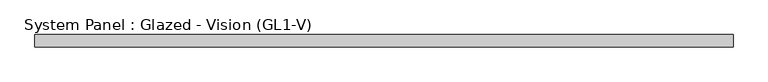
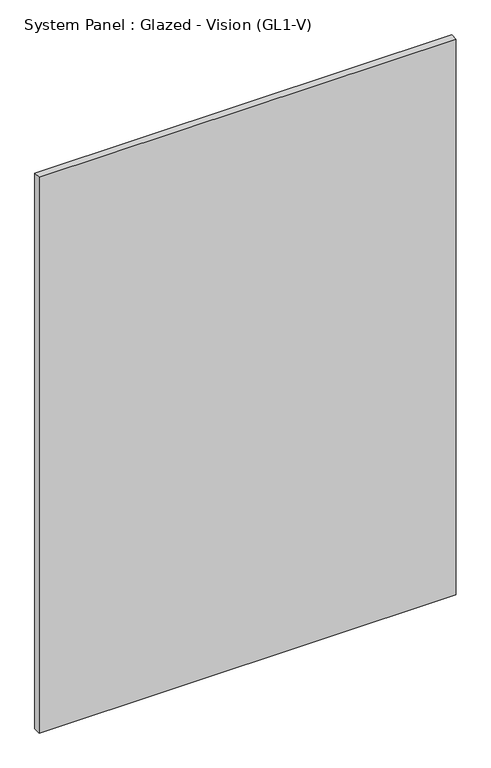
"""IFC4 building model written with IfcOpenShell, lengths in millimetres: plate geometry, System Panel : Glazed - Vision (GL1-V)."""

import ifcopenshell
import ifcopenshell.guid

model = None  # the IFC model being written
_history = None  # IfcOwnerHistory: only IFC2X3 demands one
_inside = {}  # id of a spatial element -> (the spatial element, [elements in it])
_under = {}  # id of a project, library or spatial element -> (it, [spatial elements below it])
_declared = {}  # id of a project -> (the project, [libraries it declares])
_typed = {}  # id of a type object -> (the type object, [elements of that type])
_made_of = {}  # id of a material, layer set ... -> (it, [elements and type objects made of it])


def new_model(schema):
    """Start an empty IFC model of exactly this schema.

    Asked for "IFC4X3", IfcOpenShell would pick the latest addendum, in which some entities
    have other attributes; the version numbers below select the first issue.
    IFC2X3 requires an IfcOwnerHistory on every rooted entity: one is made here for all.
    """
    global model, _history
    if schema == "IFC4X3":
        model = ifcopenshell.file(schema_version=(4, 3, 0, 0))
    else:
        model = ifcopenshell.file(schema=schema)
    _inside.clear()
    _under.clear()
    _declared.clear()
    _typed.clear()
    _made_of.clear()
    _history = None
    if model.schema == "IFC2X3":
        org = make("IfcOrganization", Name="unknown")
        user = make(
            "IfcPersonAndOrganization",
            ThePerson=make("IfcPerson", FamilyName="unknown"),
            TheOrganization=org,
        )
        app = make(
            "IfcApplication",
            ApplicationDeveloper=org,
            Version="unknown",
            ApplicationFullName="unknown",
            ApplicationIdentifier="unknown",
        )
        _history = make(
            "IfcOwnerHistory",
            OwningUser=user,
            OwningApplication=app,
            ChangeAction="ADDED",
            CreationDate=0,
        )
    return model


def make(cls, **values):
    """One entity of the class cls with the attributes given. An attribute that is None is left unset."""
    return model.create_entity(
        cls, **{name: value for name, value in values.items() if value is not None}
    )


def rooted(cls, **values):
    """An entity with a GlobalId (a new one), such as an element, a storey or a relation."""
    return make(cls, GlobalId=ifcopenshell.guid.new(), OwnerHistory=_history, **values)


def si_unit(unit_type, name, prefix=None):
    """IfcSIUnit, for example si_unit("LENGTHUNIT", "METRE", prefix="MILLI")."""
    return make("IfcSIUnit", UnitType=unit_type, Prefix=prefix, Name=name)


def assignment(units):
    """IfcUnitAssignment: the units of a project."""
    return None if units is None else make("IfcUnitAssignment", Units=units)


def point(xyz):
    """IfcCartesianPoint."""
    return None if xyz is None else make("IfcCartesianPoint", Coordinates=xyz)


def direction(xyz):
    """IfcDirection."""
    return None if xyz is None else make("IfcDirection", DirectionRatios=xyz)


def frame(location, z_axis=None, x_axis=None):
    """IfcAxis2Placement3D, a coordinate frame: its origin and axes. An axis left out is left unset."""
    return make(
        "IfcAxis2Placement3D",
        Location=point(location),
        Axis=direction(z_axis),
        RefDirection=direction(x_axis),
    )


def origin():
    """The frame at (0, 0, 0) with its axes left unset."""
    return frame((0.0, 0.0, 0.0))


def origin_with_axes():
    """The frame at (0, 0, 0) with the z axis (0, 0, 1) and the x axis (1, 0, 0) written out."""
    return frame((0.0, 0.0, 0.0), z_axis=(0.0, 0.0, 1.0), x_axis=(1.0, 0.0, 0.0))


def place(relative_to, where):
    """IfcLocalPlacement: puts the frame where relative to a parent placement (None: the world)."""
    return make(
        "IfcLocalPlacement", PlacementRelTo=relative_to, RelativePlacement=where
    )


def context(
    kind, dimensions, precision=None, world=None, true_north=None, identifier=None
):
    """IfcGeometricRepresentationContext, for example the 3D "Model" context."""
    return make(
        "IfcGeometricRepresentationContext",
        ContextIdentifier=identifier,
        ContextType=kind,
        CoordinateSpaceDimension=dimensions,
        Precision=precision,
        WorldCoordinateSystem=world,
        TrueNorth=true_north,
    )


def project(units=None, contexts=None):
    """IfcProject with its units and contexts."""
    return rooted(
        "IfcProject",
        Name="project",
        RepresentationContexts=contexts,
        UnitsInContext=assignment(units),
    )


def spatial(cls, under=None, at=None, **own):
    """A site, building, storey or space (cls), placed at a placement, below another one or the project."""
    s = rooted(cls, ObjectPlacement=at, **own)
    if under is not None:
        _under.setdefault(under.id(), (under, []))[1].append(s)
    return s


def polyline(points):
    """IfcPolyline through the points."""
    return make("IfcPolyline", Points=[point(p) for p in points])


def outline(outer, holes=None, kind="AREA"):
    """IfcArbitraryClosedProfileDef: a profile drawn as a closed curve; with holes, ...WithVoids."""
    if holes is None:
        return make("IfcArbitraryClosedProfileDef", ProfileType=kind, OuterCurve=outer)
    return make(
        "IfcArbitraryProfileDefWithVoids",
        ProfileType=kind,
        OuterCurve=outer,
        InnerCurves=holes,
    )


def extrude(swept, where, along, depth):
    """IfcExtrudedAreaSolid: the profile swept, set in the frame where, extruded along a direction by depth."""
    return make(
        "IfcExtrudedAreaSolid",
        SweptArea=swept,
        Position=where,
        ExtrudedDirection=direction(along),
        Depth=depth,
    )


def shape(context_of_items, identifier, shape_type, items):
    """IfcShapeRepresentation: the items that make up one representation, for example the "Body"."""
    return make(
        "IfcShapeRepresentation",
        ContextOfItems=context_of_items,
        RepresentationIdentifier=identifier,
        RepresentationType=shape_type,
        Items=items,
    )


def source(mapping_origin, context_of_items, identifier, shape_type, items):
    """IfcRepresentationMap: a shape defined once, which mapped items show again and again."""
    return make(
        "IfcRepresentationMap",
        MappingOrigin=mapping_origin,
        MappedRepresentation=shape(context_of_items, identifier, shape_type, items),
    )


def transform(
    local_origin,
    x_axis=None,
    y_axis=None,
    z_axis=None,
    scale=None,
    scale2=None,
    scale3=None,
    uniform=True,
):
    """IfcCartesianTransformationOperator3D, or its non-uniform kind. x_axis, y_axis, z_axis: its Axis1, 2, 3."""
    if uniform:
        return make(
            "IfcCartesianTransformationOperator3D",
            Axis1=direction(x_axis),
            Axis2=direction(y_axis),
            LocalOrigin=point(local_origin),
            Scale=scale,
            Axis3=direction(z_axis),
        )
    return make(
        "IfcCartesianTransformationOperator3DnonUniform",
        Axis1=direction(x_axis),
        Axis2=direction(y_axis),
        LocalOrigin=point(local_origin),
        Scale=scale,
        Axis3=direction(z_axis),
        Scale2=scale2,
        Scale3=scale3,
    )


def mapped(mapping_source, mapping_target):
    """IfcMappedItem: shows the shape of a source again, moved by a transform."""
    return make(
        "IfcMappedItem", MappingSource=mapping_source, MappingTarget=mapping_target
    )


def made_of(thing, what):
    """Note that an element or type object is made of a material, layer set ...; save() writes the relation."""
    if what is not None:
        _made_of.setdefault(what.id(), (what, []))[1].append(thing)
    return thing


def element(
    cls,
    number,
    at=None,
    inside=None,
    cuts=None,
    type_object=None,
    material=None,
    context=None,
    identifier="Body",
    shape_type=None,
    held_by="IfcProductDefinitionShape",
    body=None,
    shapes=None,
    **own,
):
    """One element of the class cls, such as IfcWall. Its Tag is "e" and its number.

    at: its placement. inside: the storey or other place that contains it. cuts: it is an
    opening in that element (IfcRelVoidsElement). A single representation is given by context,
    identifier, shape_type and body (its items); several are given by shapes. held_by: the class
    of the entity that holds the representations. save() writes the other relations.
    """
    e = rooted(cls, Tag="e%d" % number, ObjectPlacement=at, **own)
    if body is not None:
        shapes = [shape(context, identifier, shape_type, body)]
    if shapes is not None:
        e.Representation = make(held_by, Representations=shapes)
    if inside is not None:
        _inside.setdefault(inside.id(), (inside, []))[1].append(e)
    if cuts is not None:
        rooted(
            "IfcRelVoidsElement", RelatingBuildingElement=cuts, RelatedOpeningElement=e
        )
    if type_object is not None:
        _typed.setdefault(type_object.id(), (type_object, []))[1].append(e)
    return made_of(e, material)


def aggregate(whole, parts):
    """IfcRelAggregates: a whole, such as a stair, and the parts it consists of."""
    return rooted("IfcRelAggregates", RelatingObject=whole, RelatedObjects=parts)


def save(model, path):
    """Write the relations noted so far, then the file.

    IfcRelAggregates (storeys below a building ...), IfcRelContainedInSpatialStructure (elements
    in a storey), IfcRelDefinesByType, IfcRelAssociatesMaterial and IfcRelDeclares: one each for
    every whole, place, type object, material and project.
    """
    for whole, parts in _under.values():
        aggregate(whole, parts)
    for where, things in _inside.values():
        rooted(
            "IfcRelContainedInSpatialStructure",
            RelatedElements=things,
            RelatingStructure=where,
        )
    for kind, things in _typed.values():
        rooted("IfcRelDefinesByType", RelatedObjects=things, RelatingType=kind)
    for what, things in _made_of.values():
        rooted("IfcRelAssociatesMaterial", RelatedObjects=things, RelatingMaterial=what)
    for by, libraries in _declared.values():
        rooted("IfcRelDeclares", RelatingContext=by, RelatedDefinitions=libraries)
    model.write(path)


def system_panel_glazed_vision_gl1_v_68b22dd6(model_context):
    return source(origin(), model_context, "Body", "SweptSolid", [
        extrude(outline(polyline([(730.25, -25.4), (-730.25, -25.4), (-730.25, 0.0), (730.25, 0.0), (730.25, -25.4)])), origin_with_axes(), (0.0, 0.0, 1.0), 2057.4),
    ])


if __name__ == "__main__":
    model = new_model("IFC4")
    model_context = context("Model", 3, world=origin())
    ifc_project = project(units=[si_unit("LENGTHUNIT", "METRE", prefix="MILLI")], contexts=[model_context])
    site = spatial("IfcSite", under=ifc_project)
    building = spatial("IfcBuilding", under=site)
    placement = place(None, origin())
    system_panel_glazed_vision_gl1_v_shape = system_panel_glazed_vision_gl1_v_68b22dd6(model_context)
    element("IfcPlate", 1, ObjectType="System Panel : Glazed - Vision (GL1-V)", at=placement, inside=building, context=model_context, shape_type="MappedRepresentation", body=[
        mapped(system_panel_glazed_vision_gl1_v_shape, transform((0.0, 0.0, 0.0), x_axis=(1.0, 0.0, 0.0), y_axis=(0.0, 1.0, 0.0), z_axis=(0.0, 0.0, 1.0))),
    ])
    save(model, "model.ifc")
